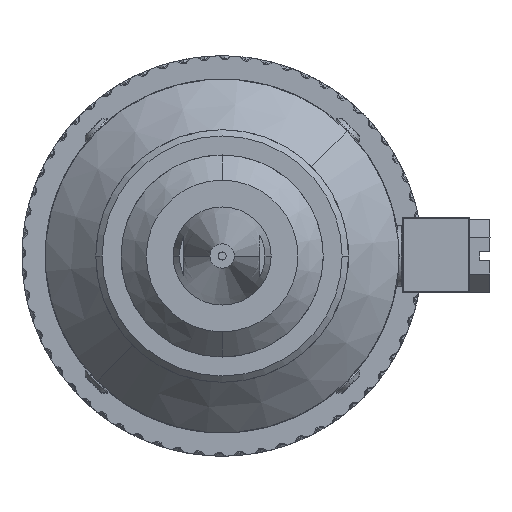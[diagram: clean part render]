
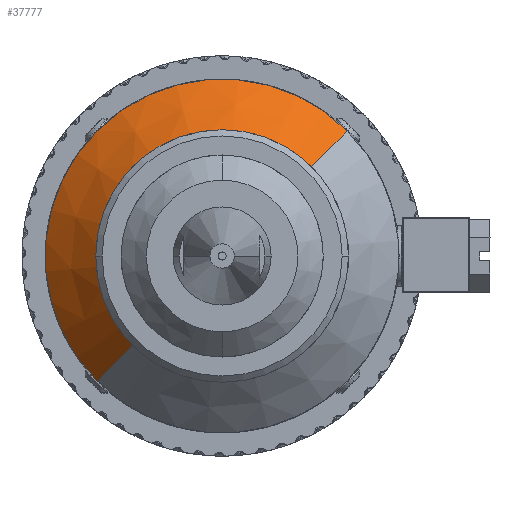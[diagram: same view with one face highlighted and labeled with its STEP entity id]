
A CAD part, front view. The second image highlights one B-rep face of the part: STEP entity #37777.
In plain terms, the highlighted conical face has half-angle 45 degrees and reference radius 15.875 mm.
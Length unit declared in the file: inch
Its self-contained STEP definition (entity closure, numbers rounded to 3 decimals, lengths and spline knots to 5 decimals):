
#529 = ORIENTED_EDGE ( 'NONE', *, *, #62896, .T. ) ;
#8253 = AXIS2_PLACEMENT_3D ( 'NONE', #29741, #35375, #23356 ) ;
#9320 = EDGE_LOOP ( 'NONE', ( #63137, #47397, #529, #28033 ) ) ;
#12628 = CARTESIAN_POINT ( 'NONE',  ( -0.4235, -0.05021, -0.44267 ) ) ;
#15265 = FACE_OUTER_BOUND ( 'NONE', #9320, .T. ) ;
#18966 = DIRECTION ( 'NONE',  ( -0.5, 0.707, -0.5 ) ) ;
#20626 = CARTESIAN_POINT ( 'NONE',  ( -0.4235, -0.05021, -0.44267 ) ) ;
#23227 = EDGE_CURVE ( 'NONE', #74992, #24636, #26841, .T. ) ;
#23356 = DIRECTION ( 'NONE',  ( -0.707, 0., -0.707 ) ) ;
#24636 = VERTEX_POINT ( 'NONE', #63591 ) ;
#26584 = DIRECTION ( 'NONE',  ( 0.707, 0., 0.707 ) ) ;
#26619 = DIRECTION ( 'NONE',  ( 0.5, 0.707, 0.5 ) ) ;
#26841 = LINE ( 'NONE', #12628, #62618 ) ;
#28033 = ORIENTED_EDGE ( 'NONE', *, *, #23227, .F. ) ;
#29741 = CARTESIAN_POINT ( 'NONE',  ( 0.01844, -0.05021, -0.00073 ) ) ;
#29894 = CIRCLE ( 'NONE', #65785, 0.875 ) ;
#30682 = LINE ( 'NONE', #55537, #68183 ) ;
#30754 = CIRCLE ( 'NONE', #61047, 0.625 ) ;
#32692 = DIRECTION ( 'NONE',  ( 0., -1., 0. ) ) ;
#33799 = DIRECTION ( 'NONE',  ( 0.707, 0., 0.707 ) ) ;
#35375 = DIRECTION ( 'NONE',  ( 0., 1., 0. ) ) ;
#37777 = ADVANCED_FACE ( 'NONE', ( #15265 ), #70117, .T. ) ;
#39417 = DIRECTION ( 'NONE',  ( 0., -1., 0. ) ) ;
#46419 = EDGE_CURVE ( 'NONE', #58509, #55072, #30682, .T. ) ;
#47053 = CARTESIAN_POINT ( 'NONE',  ( 0.46039, -0.05021, 0.44121 ) ) ;
#47397 = ORIENTED_EDGE ( 'NONE', *, *, #46419, .T. ) ;
#50406 = CARTESIAN_POINT ( 'NONE',  ( 0.63716, 0.19979, 0.61799 ) ) ;
#50501 = CARTESIAN_POINT ( 'NONE',  ( 0.01844, 0.19979, -0.00073 ) ) ;
#55072 = VERTEX_POINT ( 'NONE', #50406 ) ;
#55537 = CARTESIAN_POINT ( 'NONE',  ( 0.46039, -0.05021, 0.44121 ) ) ;
#58509 = VERTEX_POINT ( 'NONE', #47053 ) ;
#61047 = AXIS2_PLACEMENT_3D ( 'NONE', #67716, #32692, #26584 ) ;
#62618 = VECTOR ( 'NONE', #18966, 39.37008 ) ;
#62896 = EDGE_CURVE ( 'NONE', #55072, #24636, #29894, .T. ) ;
#63137 = ORIENTED_EDGE ( 'NONE', *, *, #74977, .F. ) ;
#63591 = CARTESIAN_POINT ( 'NONE',  ( -0.60028, 0.19979, -0.61945 ) ) ;
#65785 = AXIS2_PLACEMENT_3D ( 'NONE', #50501, #39417, #33799 ) ;
#67716 = CARTESIAN_POINT ( 'NONE',  ( 0.01844, -0.05021, -0.00073 ) ) ;
#68183 = VECTOR ( 'NONE', #26619, 39.37008 ) ;
#70117 = CONICAL_SURFACE ( 'NONE', #8253, 0.625, 0.785 ) ;
#74977 = EDGE_CURVE ( 'NONE', #58509, #74992, #30754, .T. ) ;
#74992 = VERTEX_POINT ( 'NONE', #20626 ) ;
